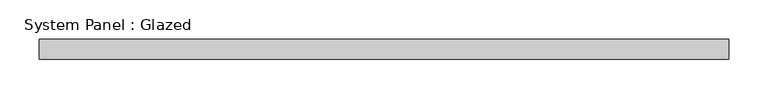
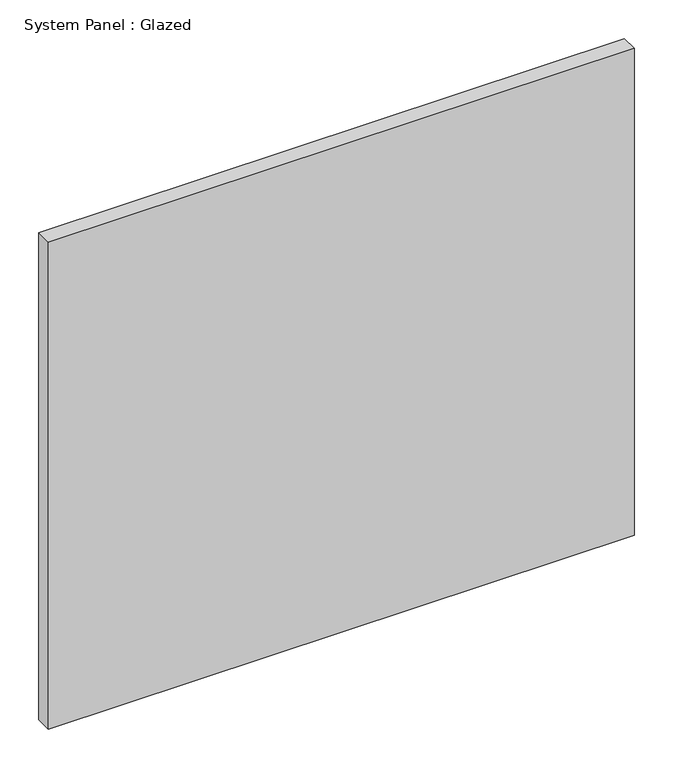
"""IFC4 building model written with IfcOpenShell, lengths in millimetres: plate geometry, System Panel : Glazed."""

from ifc_helpers import new_model, si_unit, origin, origin_with_axes, place, context, project, spatial, polyline, outline, extrude, source, transform, mapped, element, save


def system_panel_glazed_51162286(model_context):
    return source(origin(), model_context, "Body", "SweptSolid", [
        extrude(outline(polyline([(438.15, -44.45), (-438.15, -44.45), (-438.15, -19.05), (438.15, -19.05), (438.15, -44.45)])), origin_with_axes(), (0.0, 0.0, 1.0), 770.6690025),
    ])


if __name__ == "__main__":
    model = new_model("IFC4")
    model_context = context("Model", 3, world=origin())
    ifc_project = project(units=[si_unit("LENGTHUNIT", "METRE", prefix="MILLI")], contexts=[model_context])
    site = spatial("IfcSite", under=ifc_project)
    building = spatial("IfcBuilding", under=site)
    placement = place(None, origin())
    system_panel_glazed_shape = system_panel_glazed_51162286(model_context)
    element("IfcPlate", 1, ObjectType="System Panel : Glazed", at=placement, inside=building, context=model_context, shape_type="MappedRepresentation", body=[
        mapped(system_panel_glazed_shape, transform((0.0, 0.0, 0.0), x_axis=(1.0, 0.0, 0.0), y_axis=(0.0, 1.0, 0.0), z_axis=(0.0, 0.0, 1.0))),
    ])
    save(model, "model.ifc")
